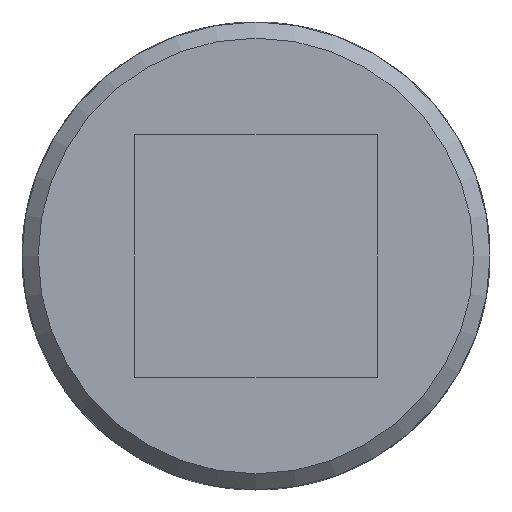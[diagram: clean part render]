
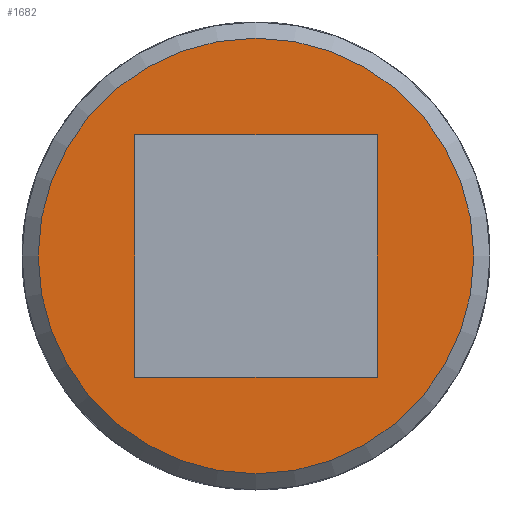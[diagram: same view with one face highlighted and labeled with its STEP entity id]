
A CAD part, front view. The second image highlights one B-rep face of the part: STEP entity #1682.
In plain terms, the highlighted planar face has unit normal (0, -1, 0).
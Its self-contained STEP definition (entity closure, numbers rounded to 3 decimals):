
#112=LINE('',#3176,#176);
#116=LINE('',#3199,#180);
#122=LINE('',#3237,#186);
#125=LINE('',#3257,#189);
#176=VECTOR('',#2169,30.);
#180=VECTOR('',#2177,30.);
#186=VECTOR('',#2185,30.);
#189=VECTOR('',#2192,30.);
#240=PLANE('',#1848);
#383=FACE_BOUND('',#608,.T.);
#469=FACE_OUTER_BOUND('',#607,.T.);
#607=EDGE_LOOP('',(#1467));
#608=EDGE_LOOP('',(#1468,#1469,#1470,#1471));
#696=CIRCLE('',#1846,27.);
#823=VERTEX_POINT('',#3173);
#824=VERTEX_POINT('',#3175);
#830=VERTEX_POINT('',#3198);
#839=VERTEX_POINT('',#3235);
#846=VERTEX_POINT('',#3302);
#1029=EDGE_CURVE('',#824,#823,#112,.T.);
#1036=EDGE_CURVE('',#830,#824,#116,.T.);
#1046=EDGE_CURVE('',#823,#839,#122,.T.);
#1052=EDGE_CURVE('',#839,#830,#125,.T.);
#1063=EDGE_CURVE('',#846,#846,#696,.T.);
#1467=ORIENTED_EDGE('',*,*,#1063,.F.);
#1468=ORIENTED_EDGE('',*,*,#1029,.T.);
#1469=ORIENTED_EDGE('',*,*,#1046,.T.);
#1470=ORIENTED_EDGE('',*,*,#1052,.T.);
#1471=ORIENTED_EDGE('',*,*,#1036,.T.);
#1682=ADVANCED_FACE('',(#469,#383),#240,.F.);
#1846=AXIS2_PLACEMENT_3D('',#3303,#2221,#2222);
#1848=AXIS2_PLACEMENT_3D('',#3511,#2229,#2230);
#2169=DIRECTION('',(0.,0.,-1.));
#2177=DIRECTION('',(1.,0.,0.));
#2185=DIRECTION('',(-1.,0.,0.));
#2192=DIRECTION('',(0.,0.,1.));
#2221=DIRECTION('center_axis',(0.,1.,0.));
#2222=DIRECTION('ref_axis',(1.,0.,0.));
#2229=DIRECTION('center_axis',(0.,1.,0.));
#2230=DIRECTION('ref_axis',(0.,0.,1.));
#3173=CARTESIAN_POINT('',(15.,-75.5,-15.));
#3175=CARTESIAN_POINT('',(15.,-75.5,15.));
#3176=CARTESIAN_POINT('',(15.,-75.5,7.5));
#3198=CARTESIAN_POINT('',(-15.,-75.5,15.));
#3199=CARTESIAN_POINT('',(-7.5,-75.5,15.));
#3235=CARTESIAN_POINT('',(-15.,-75.5,-15.));
#3237=CARTESIAN_POINT('',(7.5,-75.5,-15.));
#3257=CARTESIAN_POINT('',(-15.,-75.5,-7.5));
#3302=CARTESIAN_POINT('',(-27.,-75.5,0.));
#3303=CARTESIAN_POINT('Origin',(0.,-75.5,0.));
#3511=CARTESIAN_POINT('Origin',(0.,-75.5,0.));
